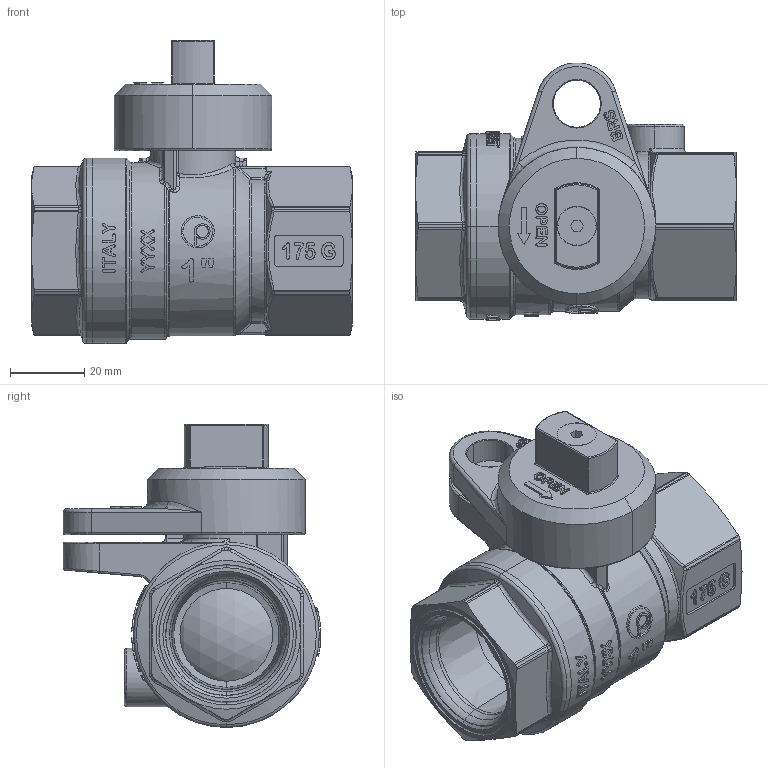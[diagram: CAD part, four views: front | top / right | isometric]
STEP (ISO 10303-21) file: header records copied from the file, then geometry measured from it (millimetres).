
FILE_DESCRIPTION(('Open CASCADE Model'),'2;1');
FILE_NAME('Open CASCADE Shape Model','2021-11-24T11:09:07',('Author'),( 'Open CASCADE'),'Open CASCADE STEP processor 7.3','Open CASCADE 7.3' ,'Unknown');
FILE_SCHEMA(('AUTOMOTIVE_DESIGN { 1 0 10303 214 1 1 1 1 }'));
Length unit declared in the file: millimetre
Products named in the file (21): Open CASCADE STEP translator 7.3 1; Open CASCADE STEP translator 7.3 1.1; Open CASCADE STEP translator 7.3 1.2; Open CASCADE STEP translator 7.3 1.3; Open CASCADE STEP translator 7.3 1.4; Open CASCADE STEP translator 7.3 1.5; Open CASCADE STEP translator 7.3 1.6; Open CASCADE STEP translator 7.3 1.7; Open CASCADE STEP translator 7.3 1.8; Open CASCADE STEP translator 7.3 1.9; Open CASCADE STEP translator 7.3 1.10; Open CASCADE STEP translator 7.3 1.11; Open CASCADE STEP translator 7.3 1.12; Open CASCADE STEP translator 7.3 1.13; Open CASCADE STEP translator 7.3 1.14; Open CASCADE STEP translator 7.3 1.15; Open CASCADE STEP translator 7.3 1.16; Open CASCADE STEP translator 7.3 1.17; Open CASCADE STEP translator 7.3 1.18; Open CASCADE STEP translator 7.3 1.19; Open CASCADE STEP translator 7.3 1.20
Assembly tree (20 placements, depth 2):
  Open CASCADE STEP translator 7.3 1
    Open CASCADE STEP translator 7.3 1.1
    Open CASCADE STEP translator 7.3 1.2
    Open CASCADE STEP translator 7.3 1.3
    Open CASCADE STEP translator 7.3 1.4
    Open CASCADE STEP translator 7.3 1.5
    Open CASCADE STEP translator 7.3 1.6
    Open CASCADE STEP translator 7.3 1.7
    Open CASCADE STEP translator 7.3 1.8
    Open CASCADE STEP translator 7.3 1.9
    Open CASCADE STEP translator 7.3 1.10
    Open CASCADE STEP translator 7.3 1.11
    Open CASCADE STEP translator 7.3 1.12
    Open CASCADE STEP translator 7.3 1.13
    Open CASCADE STEP translator 7.3 1.14
    Open CASCADE STEP translator 7.3 1.15
    Open CASCADE STEP translator 7.3 1.16
    Open CASCADE STEP translator 7.3 1.17
    Open CASCADE STEP translator 7.3 1.18
    Open CASCADE STEP translator 7.3 1.19
    Open CASCADE STEP translator 7.3 1.20
Bounding box: 86.5 x 69.49 x 81.7 mm (x, y, z)
Volume: 115806.7 mm3; surface area: 68387.4 mm2
Topology: 12 solids, 20 shells, 1981 faces, 5190 edges, 3317 vertices
Faces by surface type: extrusion 956, plane 318, cylinder 294, cone 133, bspline 129, torus 108, sphere 27, revolution 16
Entity records: 206664 total; most frequent: CARTESIAN_POINT 115813, DIRECTION 11682, ORIENTED_EDGE 10338, PCURVE 10338, DEFINITIONAL_REPRESENTATION 10338, B_SPLINE_CURVE_WITH_KNOTS 8382, VECTOR 7698, LINE 6742
